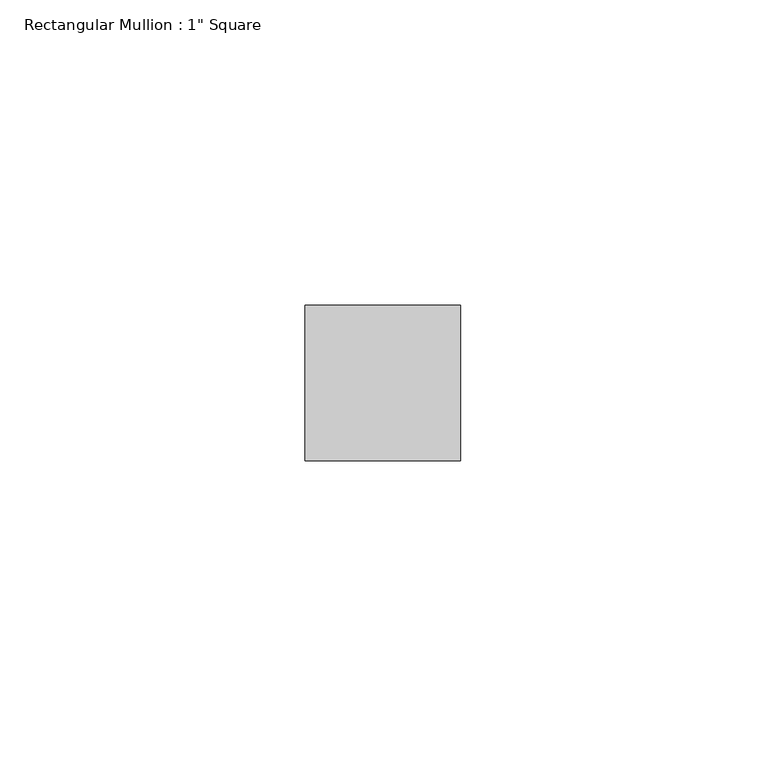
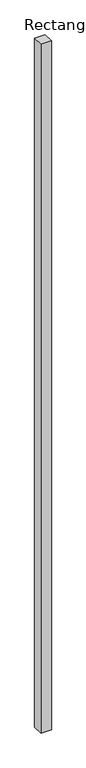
"""IFC4 building model written with IfcOpenShell, lengths in millimetres: member geometry."""

import ifcopenshell
import ifcopenshell.guid

model = None  # the IFC model being written
_history = None  # IfcOwnerHistory: only IFC2X3 demands one
_inside = {}  # id of a spatial element -> (the spatial element, [elements in it])
_under = {}  # id of a project, library or spatial element -> (it, [spatial elements below it])
_declared = {}  # id of a project -> (the project, [libraries it declares])
_typed = {}  # id of a type object -> (the type object, [elements of that type])
_made_of = {}  # id of a material, layer set ... -> (it, [elements and type objects made of it])


def new_model(schema):
    """Start an empty IFC model of exactly this schema.

    Asked for "IFC4X3", IfcOpenShell would pick the latest addendum, in which some entities
    have other attributes; the version numbers below select the first issue.
    IFC2X3 requires an IfcOwnerHistory on every rooted entity: one is made here for all.
    """
    global model, _history
    if schema == "IFC4X3":
        model = ifcopenshell.file(schema_version=(4, 3, 0, 0))
    else:
        model = ifcopenshell.file(schema=schema)
    _inside.clear()
    _under.clear()
    _declared.clear()
    _typed.clear()
    _made_of.clear()
    _history = None
    if model.schema == "IFC2X3":
        org = make("IfcOrganization", Name="unknown")
        user = make(
            "IfcPersonAndOrganization",
            ThePerson=make("IfcPerson", FamilyName="unknown"),
            TheOrganization=org,
        )
        app = make(
            "IfcApplication",
            ApplicationDeveloper=org,
            Version="unknown",
            ApplicationFullName="unknown",
            ApplicationIdentifier="unknown",
        )
        _history = make(
            "IfcOwnerHistory",
            OwningUser=user,
            OwningApplication=app,
            ChangeAction="ADDED",
            CreationDate=0,
        )
    return model


def make(cls, **values):
    """One entity of the class cls with the attributes given. An attribute that is None is left unset."""
    return model.create_entity(
        cls, **{name: value for name, value in values.items() if value is not None}
    )


def rooted(cls, **values):
    """An entity with a GlobalId (a new one), such as an element, a storey or a relation."""
    return make(cls, GlobalId=ifcopenshell.guid.new(), OwnerHistory=_history, **values)


def si_unit(unit_type, name, prefix=None):
    """IfcSIUnit, for example si_unit("LENGTHUNIT", "METRE", prefix="MILLI")."""
    return make("IfcSIUnit", UnitType=unit_type, Prefix=prefix, Name=name)


def assignment(units):
    """IfcUnitAssignment: the units of a project."""
    return None if units is None else make("IfcUnitAssignment", Units=units)


def point(xyz):
    """IfcCartesianPoint."""
    return None if xyz is None else make("IfcCartesianPoint", Coordinates=xyz)


def direction(xyz):
    """IfcDirection."""
    return None if xyz is None else make("IfcDirection", DirectionRatios=xyz)


def frame(location, z_axis=None, x_axis=None):
    """IfcAxis2Placement3D, a coordinate frame: its origin and axes. An axis left out is left unset."""
    return make(
        "IfcAxis2Placement3D",
        Location=point(location),
        Axis=direction(z_axis),
        RefDirection=direction(x_axis),
    )


def origin():
    """The frame at (0, 0, 0) with its axes left unset."""
    return frame((0.0, 0.0, 0.0))


def place(relative_to, where):
    """IfcLocalPlacement: puts the frame where relative to a parent placement (None: the world)."""
    return make(
        "IfcLocalPlacement", PlacementRelTo=relative_to, RelativePlacement=where
    )


def context(
    kind, dimensions, precision=None, world=None, true_north=None, identifier=None
):
    """IfcGeometricRepresentationContext, for example the 3D "Model" context."""
    return make(
        "IfcGeometricRepresentationContext",
        ContextIdentifier=identifier,
        ContextType=kind,
        CoordinateSpaceDimension=dimensions,
        Precision=precision,
        WorldCoordinateSystem=world,
        TrueNorth=true_north,
    )


def project(units=None, contexts=None):
    """IfcProject with its units and contexts."""
    return rooted(
        "IfcProject",
        Name="project",
        RepresentationContexts=contexts,
        UnitsInContext=assignment(units),
    )


def spatial(cls, under=None, at=None, **own):
    """A site, building, storey or space (cls), placed at a placement, below another one or the project."""
    s = rooted(cls, ObjectPlacement=at, **own)
    if under is not None:
        _under.setdefault(under.id(), (under, []))[1].append(s)
    return s


def polyline(points):
    """IfcPolyline through the points."""
    return make("IfcPolyline", Points=[point(p) for p in points])


def outline(outer, holes=None, kind="AREA"):
    """IfcArbitraryClosedProfileDef: a profile drawn as a closed curve; with holes, ...WithVoids."""
    if holes is None:
        return make("IfcArbitraryClosedProfileDef", ProfileType=kind, OuterCurve=outer)
    return make(
        "IfcArbitraryProfileDefWithVoids",
        ProfileType=kind,
        OuterCurve=outer,
        InnerCurves=holes,
    )


def extrude(swept, where, along, depth):
    """IfcExtrudedAreaSolid: the profile swept, set in the frame where, extruded along a direction by depth."""
    return make(
        "IfcExtrudedAreaSolid",
        SweptArea=swept,
        Position=where,
        ExtrudedDirection=direction(along),
        Depth=depth,
    )


def shape(context_of_items, identifier, shape_type, items):
    """IfcShapeRepresentation: the items that make up one representation, for example the "Body"."""
    return make(
        "IfcShapeRepresentation",
        ContextOfItems=context_of_items,
        RepresentationIdentifier=identifier,
        RepresentationType=shape_type,
        Items=items,
    )


def source(mapping_origin, context_of_items, identifier, shape_type, items):
    """IfcRepresentationMap: a shape defined once, which mapped items show again and again."""
    return make(
        "IfcRepresentationMap",
        MappingOrigin=mapping_origin,
        MappedRepresentation=shape(context_of_items, identifier, shape_type, items),
    )


def transform(
    local_origin,
    x_axis=None,
    y_axis=None,
    z_axis=None,
    scale=None,
    scale2=None,
    scale3=None,
    uniform=True,
):
    """IfcCartesianTransformationOperator3D, or its non-uniform kind. x_axis, y_axis, z_axis: its Axis1, 2, 3."""
    if uniform:
        return make(
            "IfcCartesianTransformationOperator3D",
            Axis1=direction(x_axis),
            Axis2=direction(y_axis),
            LocalOrigin=point(local_origin),
            Scale=scale,
            Axis3=direction(z_axis),
        )
    return make(
        "IfcCartesianTransformationOperator3DnonUniform",
        Axis1=direction(x_axis),
        Axis2=direction(y_axis),
        LocalOrigin=point(local_origin),
        Scale=scale,
        Axis3=direction(z_axis),
        Scale2=scale2,
        Scale3=scale3,
    )


def mapped(mapping_source, mapping_target):
    """IfcMappedItem: shows the shape of a source again, moved by a transform."""
    return make(
        "IfcMappedItem", MappingSource=mapping_source, MappingTarget=mapping_target
    )


def made_of(thing, what):
    """Note that an element or type object is made of a material, layer set ...; save() writes the relation."""
    if what is not None:
        _made_of.setdefault(what.id(), (what, []))[1].append(thing)
    return thing


def element(
    cls,
    number,
    at=None,
    inside=None,
    cuts=None,
    type_object=None,
    material=None,
    context=None,
    identifier="Body",
    shape_type=None,
    held_by="IfcProductDefinitionShape",
    body=None,
    shapes=None,
    **own,
):
    """One element of the class cls, such as IfcWall. Its Tag is "e" and its number.

    at: its placement. inside: the storey or other place that contains it. cuts: it is an
    opening in that element (IfcRelVoidsElement). A single representation is given by context,
    identifier, shape_type and body (its items); several are given by shapes. held_by: the class
    of the entity that holds the representations. save() writes the other relations.
    """
    e = rooted(cls, Tag="e%d" % number, ObjectPlacement=at, **own)
    if body is not None:
        shapes = [shape(context, identifier, shape_type, body)]
    if shapes is not None:
        e.Representation = make(held_by, Representations=shapes)
    if inside is not None:
        _inside.setdefault(inside.id(), (inside, []))[1].append(e)
    if cuts is not None:
        rooted(
            "IfcRelVoidsElement", RelatingBuildingElement=cuts, RelatedOpeningElement=e
        )
    if type_object is not None:
        _typed.setdefault(type_object.id(), (type_object, []))[1].append(e)
    return made_of(e, material)


def aggregate(whole, parts):
    """IfcRelAggregates: a whole, such as a stair, and the parts it consists of."""
    return rooted("IfcRelAggregates", RelatingObject=whole, RelatedObjects=parts)


def save(model, path):
    """Write the relations noted so far, then the file.

    IfcRelAggregates (storeys below a building ...), IfcRelContainedInSpatialStructure (elements
    in a storey), IfcRelDefinesByType, IfcRelAssociatesMaterial and IfcRelDeclares: one each for
    every whole, place, type object, material and project.
    """
    for whole, parts in _under.values():
        aggregate(whole, parts)
    for where, things in _inside.values():
        rooted(
            "IfcRelContainedInSpatialStructure",
            RelatedElements=things,
            RelatingStructure=where,
        )
    for kind, things in _typed.values():
        rooted("IfcRelDefinesByType", RelatedObjects=things, RelatingType=kind)
    for what, things in _made_of.values():
        rooted("IfcRelAssociatesMaterial", RelatedObjects=things, RelatingMaterial=what)
    for by, libraries in _declared.values():
        rooted("IfcRelDeclares", RelatingContext=by, RelatedDefinitions=libraries)
    model.write(path)


def member_1d24c50e(model_context):
    return source(origin(), model_context, "Body", "SweptSolid", [
        extrude(outline(polyline([(12.7, 12.7), (12.7, -12.7), (-12.7, -12.7), (-12.7, 12.7), (12.7, 12.7)])), frame((0.0, 0.0, -1752.5416368), z_axis=(0.0, 0.0, 1.0), x_axis=(1.0, 0.0, 0.0)), (0.0, 0.0, 1.0), 1752.5416368),
    ])


if __name__ == "__main__":
    model = new_model("IFC4")
    model_context = context("Model", 3, world=origin())
    ifc_project = project(units=[si_unit("LENGTHUNIT", "METRE", prefix="MILLI")], contexts=[model_context])
    site = spatial("IfcSite", under=ifc_project)
    building = spatial("IfcBuilding", under=site)
    placement = place(None, origin())
    member_shape = member_1d24c50e(model_context)
    element("IfcMember", 1, ObjectType="Rectangular Mullion : 1\" Square", at=placement, inside=building, context=model_context, shape_type="MappedRepresentation", body=[
        mapped(member_shape, transform((0.0, 0.0, 0.0), x_axis=(1.0, 0.0, 0.0), y_axis=(0.0, 1.0, 0.0), z_axis=(0.0, 0.0, 1.0))),
    ])
    save(model, "model.ifc")
